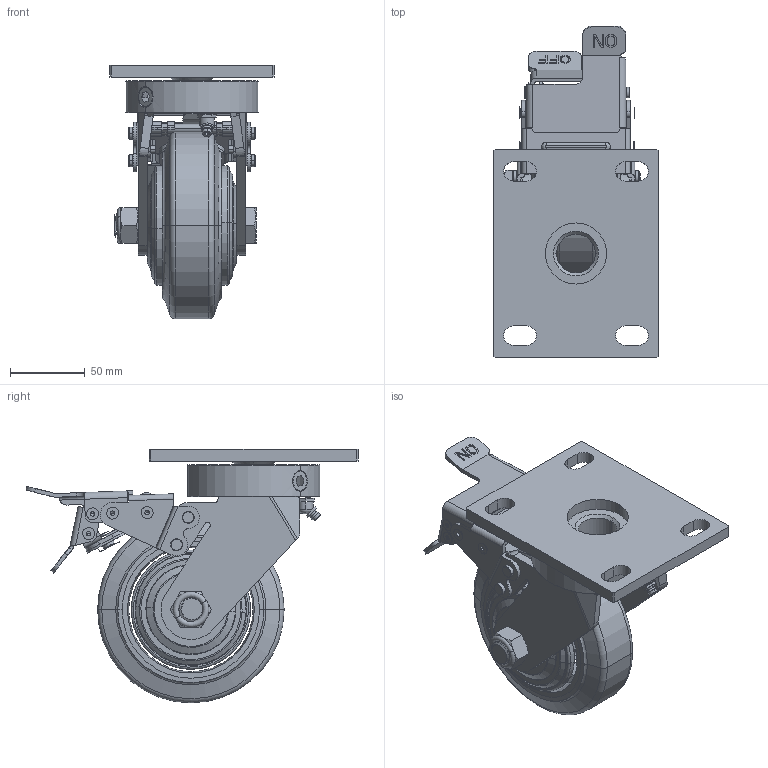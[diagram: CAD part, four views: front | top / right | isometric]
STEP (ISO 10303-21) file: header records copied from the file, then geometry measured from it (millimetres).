
FILE_DESCRIPTION((''),'2;1');
FILE_NAME('PRT0008','2025-05-23T13:55:08',('Administrator'),(''),'CREO PARAMETRIC BY PTC INC, 2022124','CREO PARAMETRIC BY PTC INC, 2022124','');
FILE_SCHEMA(('AP203_CONFIGURATION_CONTROLLED_3D_DESIGN_OF_MECHANICAL_PARTS_AND_ASSEMBLIES_MIM_LF { 1 0 10303 403 2 1 2 }'));
Length unit declared in the file: millimetre
Products named in the file (1): PRT0008
Bounding box: 110 x 222.49 x 170 mm (x, y, z)
Surface area: 163687.2 mm2 (no closed solid volume)
Topology: 0 solids, 78 shells, 475 faces, 1840 edges, 1393 vertices
Faces by surface type: plane 198, cylinder 168, cone 62, torus 39, bspline 7, extrusion 1
Entity records: 24234 total; most frequent: CARTESIAN_POINT 5359, DIRECTION 3377, ORIENTED_EDGE 2711, EDGE_CURVE 1827, VERTEX_POINT 1393, AXIS2_PLACEMENT_3D 1197, VECTOR 980, LINE 979
